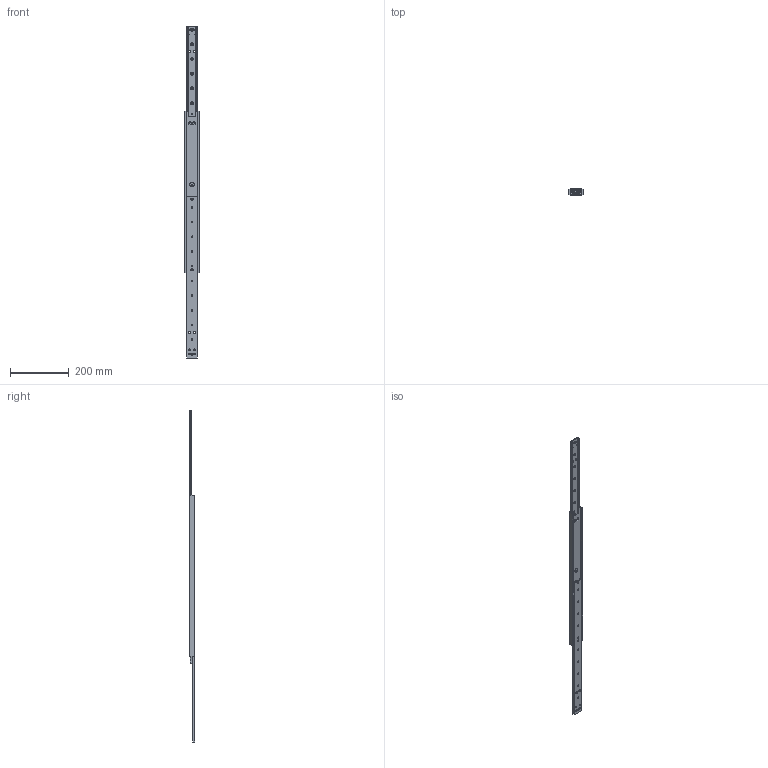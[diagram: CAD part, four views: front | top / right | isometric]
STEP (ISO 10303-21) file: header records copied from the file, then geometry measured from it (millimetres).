
FILE_DESCRIPTION (( 'STEP AP214' ), '1' );
FILE_NAME ('220-550-open.STEP', '2022-03-25T10:41:44', ( '' ), ( '' ), 'SwSTEP 2.0', 'SolidWorks 2021', '' );
FILE_SCHEMA (( 'AUTOMOTIVE_DESIGN' ));
Length unit declared in the file: millimetre
Products named in the file (5): 61_12279_12_EXPORT-WEB.STEP; 61_12274.STEP; 61_12280_12_EXPORT-FOR-WEB.STEP; 220-550-open; 61_12280_12_Beam Assembled - Stop Raises .STEP
Assembly tree (4 placements, depth 2):
  220-550-open
    61_12279_12_EXPORT-WEB.STEP
    61_12280_12_Beam Assembled - Stop Raises .STEP
    61_12280_12_EXPORT-FOR-WEB.STEP
    61_12274.STEP
Bounding box: 50.7 x 19.65 x 1130 mm (x, y, z)
Volume: 334841.4 mm3; surface area: 195915.7 mm2
Topology: 4 solids, 4 shells, 515 faces, 1338 edges, 815 vertices
Faces by surface type: cylinder 266, plane 105, cone 68, torus 43, bspline 25, sphere 8
Entity records: 18358 total; most frequent: CARTESIAN_POINT 5369, DIRECTION 2792, ORIENTED_EDGE 2652, EDGE_CURVE 1326, AXIS2_PLACEMENT_3D 1095, VERTEX_POINT 815, EDGE_LOOP 611, VECTOR 602
